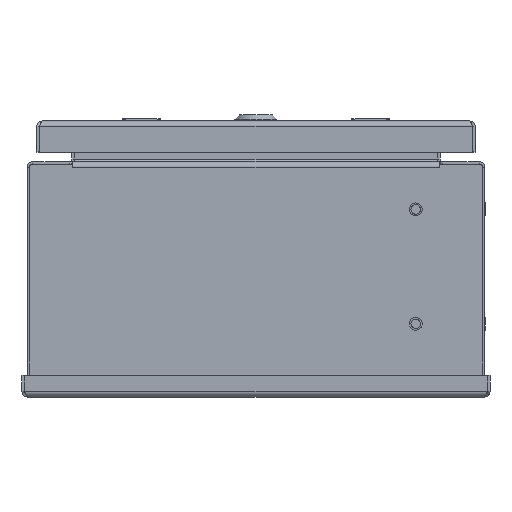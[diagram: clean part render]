
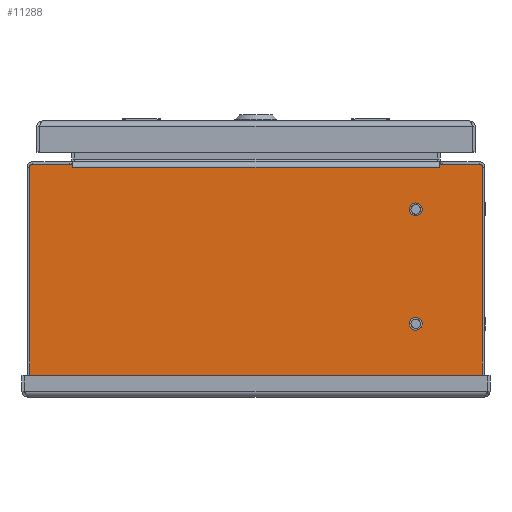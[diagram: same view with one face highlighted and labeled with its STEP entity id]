
A CAD part, front view. The second image highlights one B-rep face of the part: STEP entity #11288.
In plain terms, the highlighted planar face has unit normal (0, -1, 0).
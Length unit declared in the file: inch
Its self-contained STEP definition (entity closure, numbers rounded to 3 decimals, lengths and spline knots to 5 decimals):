
#9951=CARTESIAN_POINT('',(-5.857,0.,2.857));
#9952=DIRECTION('',(0.,-1.,0.));
#9953=DIRECTION('',(0.,0.,1.));
#9954=AXIS2_PLACEMENT_3D('',#9951,#9952,#9953);
#9959=DIRECTION('',(-1.,0.,0.));
#9960=VECTOR('',#9959,1.02894);
#9961=CARTESIAN_POINT('',(-4.82806,0.,2.937));
#9962=LINE('',#9961,#9960);
#9966=DIRECTION('',(0.174,0.,-0.985));
#9967=VECTOR('',#9966,0.08326);
#9968=CARTESIAN_POINT('',(-4.82806,0.,2.937));
#9969=LINE('',#9968,#9967);
#9973=DIRECTION('',(-1.,0.,0.));
#9974=VECTOR('',#9973,0.0156);
#9975=CARTESIAN_POINT('',(-4.798,0.,2.855));
#9976=LINE('',#9975,#9974);
#9980=DIRECTION('',(1.,0.,0.));
#9981=VECTOR('',#9980,0.0156);
#9982=CARTESIAN_POINT('',(4.798,0.,2.855));
#9983=LINE('',#9982,#9981);
#9987=DIRECTION('',(-0.174,0.,-0.985));
#9988=VECTOR('',#9987,0.08326);
#9989=CARTESIAN_POINT('',(4.82806,0.,2.937));
#9990=LINE('',#9989,#9988);
#9994=DIRECTION('',(-1.,0.,0.));
#9995=VECTOR('',#9994,1.02894);
#9996=CARTESIAN_POINT('',(5.857,0.,2.937));
#9997=LINE('',#9996,#9995);
#10001=CARTESIAN_POINT('',(5.857,0.,2.857));
#10002=DIRECTION('',(0.,-1.,0.));
#10003=DIRECTION('',(1.,0.,0.));
#10004=AXIS2_PLACEMENT_3D('',#10001,#10002,#10003);
#10009=DIRECTION('',(0.,0.,1.));
#10010=VECTOR('',#10009,5.714);
#10011=CARTESIAN_POINT('',(5.937,0.,-2.857));
#10012=LINE('',#10011,#10010);
#10016=CARTESIAN_POINT('',(5.857,0.,-2.857));
#10017=DIRECTION('',(0.,-1.,0.));
#10018=DIRECTION('',(0.,0.,-1.));
#10019=AXIS2_PLACEMENT_3D('',#10016,#10017,#10018);
#10024=DIRECTION('',(1.,0.,0.));
#10025=VECTOR('',#10024,11.714);
#10026=CARTESIAN_POINT('',(-5.857,0.,-2.937));
#10027=LINE('',#10026,#10025);
#10031=CARTESIAN_POINT('',(-5.857,0.,-2.857));
#10032=DIRECTION('',(0.,-1.,0.));
#10033=DIRECTION('',(-1.,0.,0.));
#10034=AXIS2_PLACEMENT_3D('',#10031,#10032,#10033);
#10039=DIRECTION('',(0.,0.,-1.));
#10040=VECTOR('',#10039,5.714);
#10041=CARTESIAN_POINT('',(-5.937,0.,2.857));
#10042=LINE('',#10041,#10040);
#10046=CARTESIAN_POINT('',(4.1875,0.,1.75));
#10047=DIRECTION('',(0.,1.,0.));
#10048=DIRECTION('',(0.,0.,-1.));
#10049=AXIS2_PLACEMENT_3D('',#10046,#10047,#10048);
#10054=CARTESIAN_POINT('',(4.1875,0.,1.75));
#10055=DIRECTION('',(0.,1.,0.));
#10056=DIRECTION('',(0.,0.,1.));
#10057=AXIS2_PLACEMENT_3D('',#10054,#10055,#10056);
#10062=CARTESIAN_POINT('',(4.1875,0.,-1.25));
#10063=DIRECTION('',(0.,1.,0.));
#10064=DIRECTION('',(0.,0.,-1.));
#10065=AXIS2_PLACEMENT_3D('',#10062,#10063,#10064);
#10070=CARTESIAN_POINT('',(4.1875,0.,-1.25));
#10071=DIRECTION('',(0.,1.,0.));
#10072=DIRECTION('',(0.,0.,1.));
#10073=AXIS2_PLACEMENT_3D('',#10070,#10071,#10072);
#10384=DIRECTION('',(1.,0.,0.));
#10385=VECTOR('',#10384,9.596);
#10386=CARTESIAN_POINT('',(-4.798,0.,2.855));
#10387=LINE('',#10386,#10385);
#11073=CARTESIAN_POINT('',(4.798,0.,2.855));
#11074=CARTESIAN_POINT('',(4.8136,0.,2.855));
#11075=VERTEX_POINT('',#11073);
#11076=VERTEX_POINT('',#11074);
#11077=CARTESIAN_POINT('',(4.82806,0.,2.937));
#11078=VERTEX_POINT('',#11077);
#11085=CARTESIAN_POINT('',(-4.798,0.,2.855));
#11086=CARTESIAN_POINT('',(-4.8136,0.,2.855));
#11087=VERTEX_POINT('',#11085);
#11088=VERTEX_POINT('',#11086);
#11089=CARTESIAN_POINT('',(-4.82806,0.,2.937));
#11090=VERTEX_POINT('',#11089);
#11149=CARTESIAN_POINT('',(-5.857,0.,2.937));
#11150=CARTESIAN_POINT('',(-5.937,0.,2.857));
#11151=VERTEX_POINT('',#11149);
#11152=VERTEX_POINT('',#11150);
#11157=CARTESIAN_POINT('',(-5.937,0.,-2.857));
#11158=CARTESIAN_POINT('',(-5.857,0.,-2.937));
#11159=VERTEX_POINT('',#11157);
#11160=VERTEX_POINT('',#11158);
#11165=CARTESIAN_POINT('',(5.857,0.,-2.937));
#11166=CARTESIAN_POINT('',(5.937,0.,-2.857));
#11167=VERTEX_POINT('',#11165);
#11168=VERTEX_POINT('',#11166);
#11173=CARTESIAN_POINT('',(5.937,0.,2.857));
#11174=CARTESIAN_POINT('',(5.857,0.,2.937));
#11175=VERTEX_POINT('',#11173);
#11176=VERTEX_POINT('',#11174);
#11225=CARTESIAN_POINT('',(4.1875,0.,1.62495));
#11226=CARTESIAN_POINT('',(4.1875,0.,1.87505));
#11227=VERTEX_POINT('',#11225);
#11228=VERTEX_POINT('',#11226);
#11229=CARTESIAN_POINT('',(4.1875,0.,-1.37505));
#11230=CARTESIAN_POINT('',(4.1875,0.,-1.12495));
#11231=VERTEX_POINT('',#11229);
#11232=VERTEX_POINT('',#11230);
#11241=CARTESIAN_POINT('',(0.,0.,0.));
#11242=DIRECTION('',(0.,-1.,0.));
#11243=DIRECTION('',(-1.,0.,0.));
#11244=AXIS2_PLACEMENT_3D('',#11241,#11242,#11243);
#11245=PLANE('',#11244);
#11247=ORIENTED_EDGE('',*,*,#11246,.F.);
#11249=ORIENTED_EDGE('',*,*,#11248,.F.);
#11251=ORIENTED_EDGE('',*,*,#11250,.T.);
#11253=ORIENTED_EDGE('',*,*,#11252,.F.);
#11255=ORIENTED_EDGE('',*,*,#11254,.T.);
#11257=ORIENTED_EDGE('',*,*,#11256,.T.);
#11259=ORIENTED_EDGE('',*,*,#11258,.F.);
#11261=ORIENTED_EDGE('',*,*,#11260,.F.);
#11263=ORIENTED_EDGE('',*,*,#11262,.F.);
#11265=ORIENTED_EDGE('',*,*,#11264,.F.);
#11267=ORIENTED_EDGE('',*,*,#11266,.F.);
#11269=ORIENTED_EDGE('',*,*,#11268,.F.);
#11271=ORIENTED_EDGE('',*,*,#11270,.F.);
#11273=ORIENTED_EDGE('',*,*,#11272,.F.);
#11274=EDGE_LOOP('',(#11247,#11249,#11251,#11253,#11255,#11257,#11259,#11261,
#11263,#11265,#11267,#11269,#11271,#11273));
#11275=FACE_OUTER_BOUND('',#11274,.F.);
#11277=ORIENTED_EDGE('',*,*,#11276,.F.);
#11279=ORIENTED_EDGE('',*,*,#11278,.F.);
#11280=EDGE_LOOP('',(#11277,#11279));
#11281=FACE_BOUND('',#11280,.F.);
#11283=ORIENTED_EDGE('',*,*,#11282,.F.);
#11285=ORIENTED_EDGE('',*,*,#11284,.F.);
#11286=EDGE_LOOP('',(#11283,#11285));
#11287=FACE_BOUND('',#11286,.F.);
#9955=CIRCLE('',#9954,0.08);
#10005=CIRCLE('',#10004,0.08);
#10020=CIRCLE('',#10019,0.08);
#10035=CIRCLE('',#10034,0.08);
#10050=CIRCLE('',#10049,0.12505);
#10058=CIRCLE('',#10057,0.12505);
#10066=CIRCLE('',#10065,0.12505);
#10074=CIRCLE('',#10073,0.12505);
#11246=EDGE_CURVE('',#11151,#11152,#9955,.T.);
#11248=EDGE_CURVE('',#11090,#11151,#9962,.T.);
#11250=EDGE_CURVE('',#11090,#11088,#9969,.T.);
#11252=EDGE_CURVE('',#11087,#11088,#9976,.T.);
#11254=EDGE_CURVE('',#11087,#11075,#10387,.T.);
#11256=EDGE_CURVE('',#11075,#11076,#9983,.T.);
#11258=EDGE_CURVE('',#11078,#11076,#9990,.T.);
#11260=EDGE_CURVE('',#11176,#11078,#9997,.T.);
#11262=EDGE_CURVE('',#11175,#11176,#10005,.T.);
#11264=EDGE_CURVE('',#11168,#11175,#10012,.T.);
#11266=EDGE_CURVE('',#11167,#11168,#10020,.T.);
#11268=EDGE_CURVE('',#11160,#11167,#10027,.T.);
#11270=EDGE_CURVE('',#11159,#11160,#10035,.T.);
#11272=EDGE_CURVE('',#11152,#11159,#10042,.T.);
#11276=EDGE_CURVE('',#11227,#11228,#10050,.T.);
#11278=EDGE_CURVE('',#11228,#11227,#10058,.T.);
#11282=EDGE_CURVE('',#11231,#11232,#10066,.T.);
#11284=EDGE_CURVE('',#11232,#11231,#10074,.T.);
#11288=ADVANCED_FACE('',(#11275,#11281,#11287),#11245,.T.);
